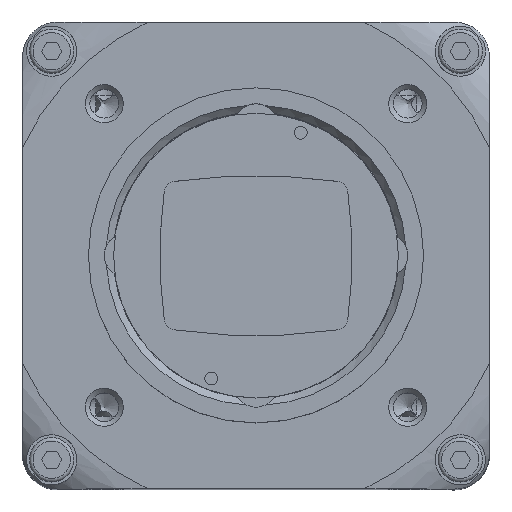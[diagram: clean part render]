
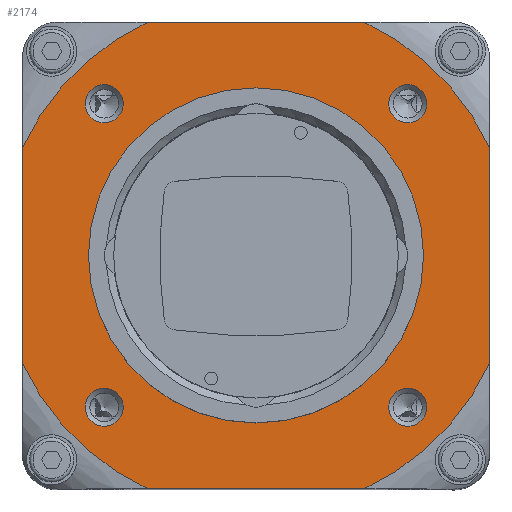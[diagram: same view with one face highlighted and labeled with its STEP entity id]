
A CAD part, top view. The second image highlights one B-rep face of the part: STEP entity #2174.
In plain terms, the highlighted planar face has unit normal (0, 0, 1).
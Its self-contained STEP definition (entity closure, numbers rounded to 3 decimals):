
#2174 = ADVANCED_FACE( '', ( #5965, #5966, #5967, #5968, #5969, #5970 ), #5971, .F. );
#5965 = FACE_BOUND( '', #12449, .T. );
#5966 = FACE_BOUND( '', #12450, .T. );
#5967 = FACE_BOUND( '', #12451, .T. );
#5968 = FACE_BOUND( '', #12452, .T. );
#5969 = FACE_BOUND( '', #12453, .T. );
#5970 = FACE_OUTER_BOUND( '', #12454, .T. );
#5971 = PLANE( '', #12455 );
#12449 = EDGE_LOOP( '', ( #21286 ) );
#12450 = EDGE_LOOP( '', ( #21287 ) );
#12451 = EDGE_LOOP( '', ( #21288 ) );
#12452 = EDGE_LOOP( '', ( #21289 ) );
#12453 = EDGE_LOOP( '', ( #21290 ) );
#12454 = EDGE_LOOP( '', ( #21291, #21292, #21293, #21294, #21295, #21296, #21297, #21298 ) );
#12455 = AXIS2_PLACEMENT_3D( '', #21299, #21300, #21301 );
#21286 = ORIENTED_EDGE( '', *, *, #34667, .T. );
#21287 = ORIENTED_EDGE( '', *, *, #34668, .T. );
#21288 = ORIENTED_EDGE( '', *, *, #34669, .T. );
#21289 = ORIENTED_EDGE( '', *, *, #34670, .T. );
#21290 = ORIENTED_EDGE( '', *, *, #34404, .T. );
#21291 = ORIENTED_EDGE( '', *, *, #34671, .F. );
#21292 = ORIENTED_EDGE( '', *, *, #34672, .T. );
#21293 = ORIENTED_EDGE( '', *, *, #34309, .F. );
#21294 = ORIENTED_EDGE( '', *, *, #34673, .T. );
#21295 = ORIENTED_EDGE( '', *, *, #34674, .F. );
#21296 = ORIENTED_EDGE( '', *, *, #34675, .T. );
#21297 = ORIENTED_EDGE( '', *, *, #34676, .F. );
#21298 = ORIENTED_EDGE( '', *, *, #34481, .T. );
#21299 = CARTESIAN_POINT( '', ( 0., 0., 12.3 ) );
#21300 = DIRECTION( '', ( 0., 0., -1. ) );
#21301 = DIRECTION( '', ( -1., 0., 0. ) );
#34309 = EDGE_CURVE( '', #39932, #39934, #39935, .T. );
#34404 = EDGE_CURVE( '', #40096, #40096, #40097, .T. );
#34481 = EDGE_CURVE( '', #40234, #40235, #40236, .T. );
#34667 = EDGE_CURVE( '', #40546, #40546, #40547, .T. );
#34668 = EDGE_CURVE( '', #40548, #40548, #40549, .T. );
#34669 = EDGE_CURVE( '', #40550, #40550, #40551, .T. );
#34670 = EDGE_CURVE( '', #40552, #40552, #40553, .T. );
#34671 = EDGE_CURVE( '', #40554, #40235, #40555, .T. );
#34672 = EDGE_CURVE( '', #40554, #39934, #40556, .T. );
#34673 = EDGE_CURVE( '', #39932, #40557, #40558, .T. );
#34674 = EDGE_CURVE( '', #40559, #40557, #40560, .T. );
#34675 = EDGE_CURVE( '', #40559, #40561, #40562, .T. );
#34676 = EDGE_CURVE( '', #40234, #40561, #40563, .T. );
#39932 = VERTEX_POINT( '', #48383 );
#39934 = VERTEX_POINT( '', #48398 );
#39935 = LINE( '', #48399, #48400 );
#40096 = VERTEX_POINT( '', #48695 );
#40097 = CIRCLE( '', #48696, 14.35 );
#40234 = VERTEX_POINT( '', #48938 );
#40235 = VERTEX_POINT( '', #48939 );
#40236 = CIRCLE( '', #48940, 22.031 );
#40546 = VERTEX_POINT( '', #49456 );
#40547 = CIRCLE( '', #49457, 1.63 );
#40548 = VERTEX_POINT( '', #49458 );
#40549 = CIRCLE( '', #49459, 1.63 );
#40550 = VERTEX_POINT( '', #49460 );
#40551 = CIRCLE( '', #49461, 1.63 );
#40552 = VERTEX_POINT( '', #49462 );
#40553 = CIRCLE( '', #49463, 1.63 );
#40554 = VERTEX_POINT( '', #49464 );
#40555 = LINE( '', #49465, #49466 );
#40556 = CIRCLE( '', #49467, 22.031 );
#40557 = VERTEX_POINT( '', #49468 );
#40558 = CIRCLE( '', #49469, 22.031 );
#40559 = VERTEX_POINT( '', #49470 );
#40560 = LINE( '', #49471, #49472 );
#40561 = VERTEX_POINT( '', #49473 );
#40562 = CIRCLE( '', #49474, 22.031 );
#40563 = LINE( '', #49475, #49476 );
#48383 = CARTESIAN_POINT( '', ( -20., -9.238, 12.3 ) );
#48398 = CARTESIAN_POINT( '', ( -20., 9.238, 12.3 ) );
#48399 = CARTESIAN_POINT( '', ( -20., -20., 12.3 ) );
#48400 = VECTOR( '', #60098, 1000. );
#48695 = CARTESIAN_POINT( '', ( 14.35, 0., 12.3 ) );
#48696 = AXIS2_PLACEMENT_3D( '', #60225, #60226, #60227 );
#48938 = CARTESIAN_POINT( '', ( 20., 9.238, 12.3 ) );
#48939 = CARTESIAN_POINT( '', ( 9.238, 20., 12.3 ) );
#48940 = AXIS2_PLACEMENT_3D( '', #60311, #60312, #60313 );
#49456 = CARTESIAN_POINT( '', ( 11.371, -13., 12.3 ) );
#49457 = AXIS2_PLACEMENT_3D( '', #60550, #60551, #60552 );
#49458 = CARTESIAN_POINT( '', ( -14.63, -13., 12.3 ) );
#49459 = AXIS2_PLACEMENT_3D( '', #60553, #60554, #60555 );
#49460 = CARTESIAN_POINT( '', ( -14.63, 13., 12.3 ) );
#49461 = AXIS2_PLACEMENT_3D( '', #60556, #60557, #60558 );
#49462 = CARTESIAN_POINT( '', ( 11.371, 13., 12.3 ) );
#49463 = AXIS2_PLACEMENT_3D( '', #60559, #60560, #60561 );
#49464 = CARTESIAN_POINT( '', ( -9.238, 20., 12.3 ) );
#49465 = CARTESIAN_POINT( '', ( -20., 20., 12.3 ) );
#49466 = VECTOR( '', #60562, 1000. );
#49467 = AXIS2_PLACEMENT_3D( '', #60563, #60564, #60565 );
#49468 = CARTESIAN_POINT( '', ( -9.238, -20., 12.3 ) );
#49469 = AXIS2_PLACEMENT_3D( '', #60566, #60567, #60568 );
#49470 = CARTESIAN_POINT( '', ( 9.238, -20., 12.3 ) );
#49471 = CARTESIAN_POINT( '', ( 20., -20., 12.3 ) );
#49472 = VECTOR( '', #60569, 1000. );
#49473 = CARTESIAN_POINT( '', ( 20., -9.238, 12.3 ) );
#49474 = AXIS2_PLACEMENT_3D( '', #60570, #60571, #60572 );
#49475 = CARTESIAN_POINT( '', ( 20., 20., 12.3 ) );
#49476 = VECTOR( '', #60573, 1000. );
#60098 = DIRECTION( '', ( 0., 1., 0. ) );
#60225 = CARTESIAN_POINT( '', ( 0., 0., 12.3 ) );
#60226 = DIRECTION( '', ( 0., 0., -1. ) );
#60227 = DIRECTION( '', ( 1., 0., 0. ) );
#60311 = CARTESIAN_POINT( '', ( 0., 0., 12.3 ) );
#60312 = DIRECTION( '', ( 0., 0., 1. ) );
#60313 = DIRECTION( '', ( 1., 0., 0. ) );
#60550 = CARTESIAN_POINT( '', ( 13., -13., 12.3 ) );
#60551 = DIRECTION( '', ( 0., 0., -1. ) );
#60552 = DIRECTION( '', ( -1., 0., 0. ) );
#60553 = CARTESIAN_POINT( '', ( -13., -13., 12.3 ) );
#60554 = DIRECTION( '', ( 0., 0., -1. ) );
#60555 = DIRECTION( '', ( -1., 0., 0. ) );
#60556 = CARTESIAN_POINT( '', ( -13., 13., 12.3 ) );
#60557 = DIRECTION( '', ( 0., 0., -1. ) );
#60558 = DIRECTION( '', ( -1., 0., 0. ) );
#60559 = CARTESIAN_POINT( '', ( 13., 13., 12.3 ) );
#60560 = DIRECTION( '', ( 0., 0., -1. ) );
#60561 = DIRECTION( '', ( -1., 0., 0. ) );
#60562 = DIRECTION( '', ( 1., 0., 0. ) );
#60563 = CARTESIAN_POINT( '', ( 0., 0., 12.3 ) );
#60564 = DIRECTION( '', ( 0., 0., 1. ) );
#60565 = DIRECTION( '', ( 1., 0., 0. ) );
#60566 = CARTESIAN_POINT( '', ( 0., 0., 12.3 ) );
#60567 = DIRECTION( '', ( 0., 0., 1. ) );
#60568 = DIRECTION( '', ( 1., 0., 0. ) );
#60569 = DIRECTION( '', ( -1., 0., 0. ) );
#60570 = CARTESIAN_POINT( '', ( 0., 0., 12.3 ) );
#60571 = DIRECTION( '', ( 0., 0., 1. ) );
#60572 = DIRECTION( '', ( 1., 0., 0. ) );
#60573 = DIRECTION( '', ( 0., -1., 0. ) );
